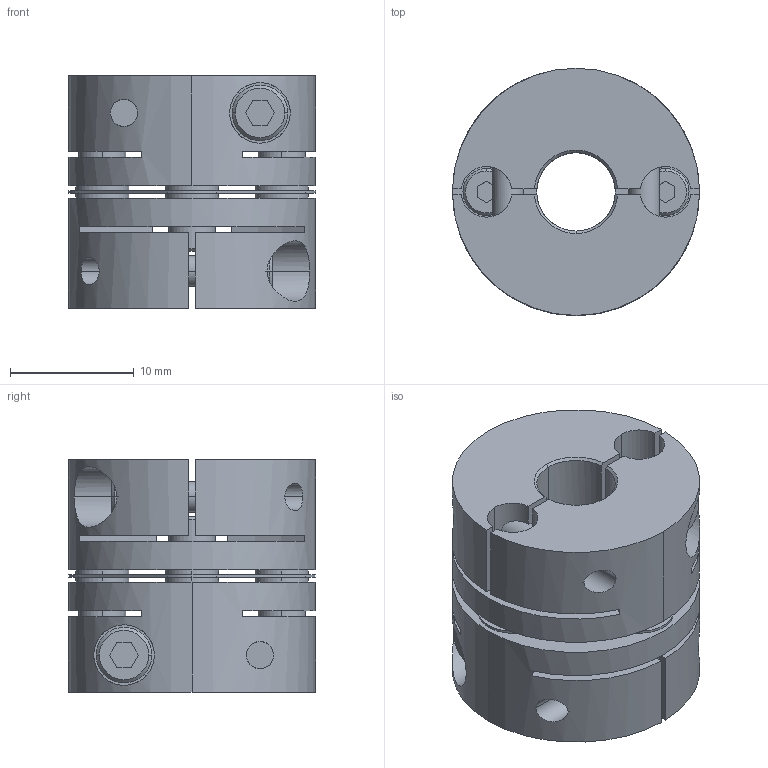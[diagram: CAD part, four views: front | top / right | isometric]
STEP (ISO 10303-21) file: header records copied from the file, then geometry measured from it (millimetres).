
FILE_DESCRIPTION((''),'2;1');
FILE_NAME('LAS-20C-6.35×7.stp','2014-02-05T09:33:00',(''),(''),'AutoCAD STEP 2000i','AutoCAD 2000i',', , ');
FILE_SCHEMA(('CONFIG_CONTROL_DESIGN'));
Length unit declared in the file: millimetre
Products named in the file (5): LAS-20C-4×4; 忣兜1; LA-2002-D04-1; LA-2002-D04; LAS20-ITA
Assembly tree (4 placements, depth 2):
  LAS-20C-4×4
    忣兜1
    LA-2002-D04-1
    LA-2002-D04
    LAS20-ITA
Bounding box: 20 x 20 x 18.8 mm (x, y, z)
Volume: 4398.8 mm3; surface area: 4505.9 mm2
Topology: 1 solids, 1 shells, 236 faces, 624 edges, 408 vertices
Faces by surface type: plane 112, cylinder 96, cone 28
Entity records: 8203 total; most frequent: CARTESIAN_POINT 2009, DIRECTION 1302, ORIENTED_EDGE 1248, EDGE_CURVE 624, AXIS2_PLACEMENT_3D 477, VERTEX_POINT 408, VECTOR 348, LINE 348
